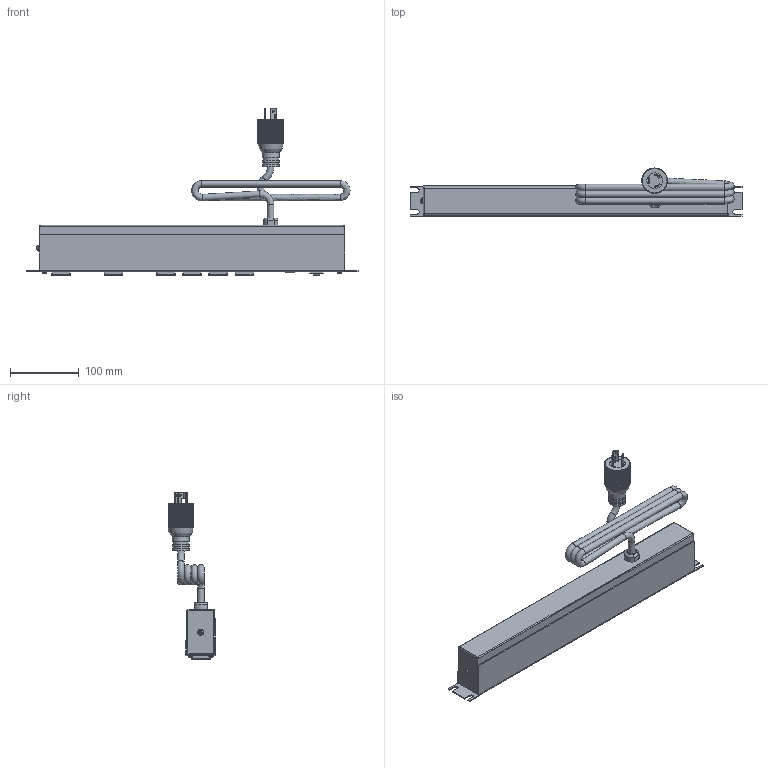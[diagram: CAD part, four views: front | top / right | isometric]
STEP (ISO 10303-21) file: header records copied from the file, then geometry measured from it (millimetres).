
FILE_DESCRIPTION((''),'2;1');
FILE_NAME('E:\Dutton\Manufacturing\drawings\Updated 2009\POWER BARS\1582 series\STEP''s\1582T6C1BK.stp','2010-01-06T11:47:58',('tfoster'),(''),'Autodesk Inventor 2010','Autodesk Inventor 2010','');
FILE_SCHEMA(('AUTOMOTIVE_DESIGN { 1 0 10303 214 1 1 1 1 }'));
Products named in the file (10): 1582T6C1BK; 1582H6 Front plate; 1582 Back Plate; #6 - 0.375 Type A screw; Reset Switch; Twist Cored 2; toothwasher; round head 1-way 8-32 x 0.5 screw; Receptacle; Pilot light
Assembly tree (17 placements, depth 2):
  1582T6C1BK
    1582H6 Front plate
    1582 Back Plate
    #6 - 0.375 Type A screw  x4
    Reset Switch
    Twist Cored 2
    toothwasher
    round head 1-way 8-32 x 0.5 screw
    Receptacle  x6
    Pilot light
Bounding box: 482.6 x 69.48 x 242.61 mm (x, y, z)
Volume: 393296.7 mm3; surface area: 307453.6 mm2
Topology: 17 solids, 17 shells, 1097 faces, 3113 edges, 2060 vertices
Faces by surface type: plane 753, cylinder 205, bspline 72, sphere 29, cone 23, torus 15
Full cylindrical faces by diameter (mm): 1.803 x3, 1.905 x2, 2.997 x4, 3.175 x3, 4.3 x1, 4.801 x1, 5.563 x4, 7.849 x1, 9.5 x5, 11 x1, 21.59 x2, 22.86 x1, 24.765 x3
Entity records: 27363 total; most frequent: CARTESIAN_POINT 8142, ORIENTED_EDGE 4082, DIRECTION 3665, EDGE_CURVE 2041, VERTEX_POINT 1390, VECTOR 1343, LINE 1343, AXIS2_PLACEMENT_3D 1161
